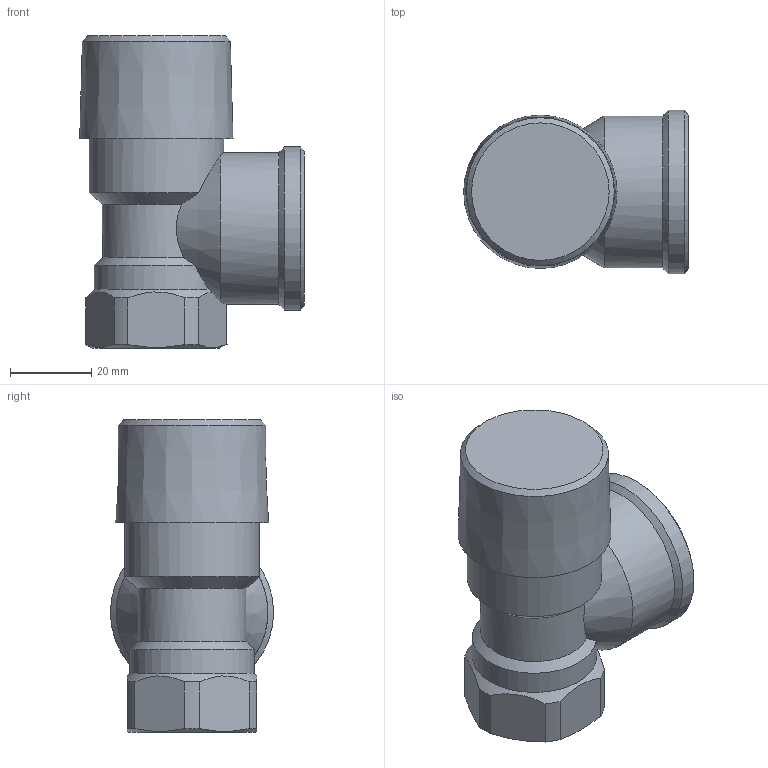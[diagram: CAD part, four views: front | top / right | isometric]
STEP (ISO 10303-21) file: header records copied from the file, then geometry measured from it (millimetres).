
FILE_DESCRIPTION(/* description */ (''),/* implementation_level */ '2;1');
FILE_NAME(/* name */ '\\DATASERVER\data\Flamco\3D-Modellen\Inventor\3D-CAD\Prescor\Prescor B\27112_prescor_b_3-4_1_10.stp',/* time_stamp */ '2018-06-07T15:02:20+02:00',/* author */ ('kasius'),/* organization */ (''),/* preprocessor_version */ 'ST-DEVELOPER v16.5',/* originating_system */ 'Autodesk Inventor 2017',/* authorisation */ '');
FILE_SCHEMA (('AUTOMOTIVE_DESIGN { 1 0 10303 214 3 1 1 }'));
Length unit declared in the file: millimetre
Products named in the file (1): 27112_prescor_b_3-4x1_10
Bounding box: 55.41 x 40.28 x 77 mm (x, y, z)
Volume: 69160.9 mm3; surface area: 16984.2 mm2
Topology: 1 solids, 1 shells, 39 faces, 97 edges, 63 vertices
Faces by surface type: cylinder 14, cone 13, plane 12
Full cylindrical faces by diameter (mm): 24.527 x1, 30.584 x1, 33.231 x1, 37.5 x1, 40.275 x1
Entity records: 1160 total; most frequent: CARTESIAN_POINT 293, DIRECTION 176, ORIENTED_EDGE 160, AXIS2_PLACEMENT_3D 81, EDGE_CURVE 80, VERTEX_POINT 58, EDGE_LOOP 54, FACE_OUTER_BOUND 39
